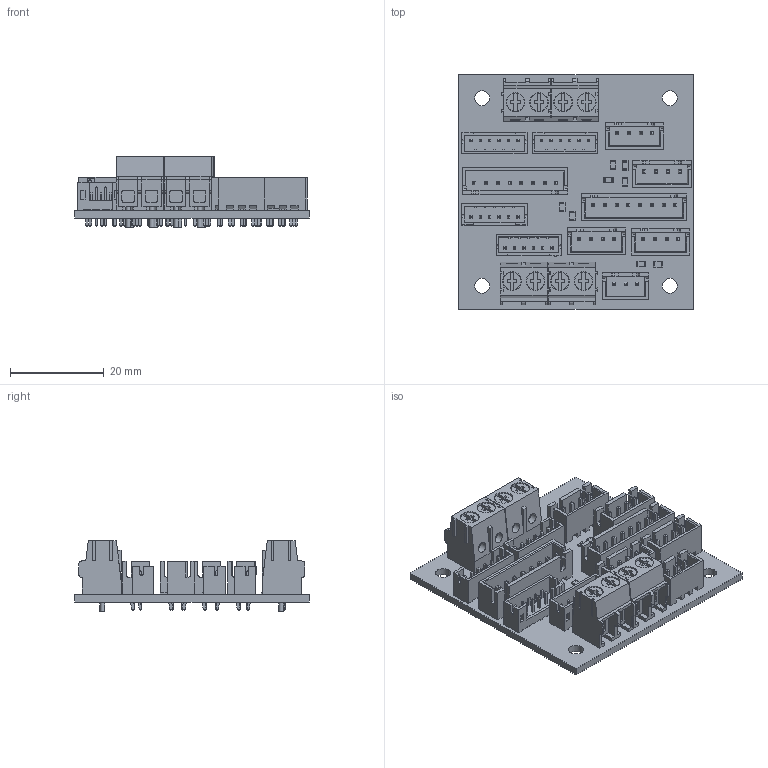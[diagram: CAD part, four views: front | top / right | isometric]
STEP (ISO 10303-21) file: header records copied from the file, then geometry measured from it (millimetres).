
FILE_DESCRIPTION(('KiCad electronic assembly'),'2;1');
FILE_NAME('mirte-master-bottom.step','2024-02-19T14:21:27',('Pcbnew'),( 'Kicad'),'Open CASCADE STEP processor 7.7','KiCad to STEP converter' ,'Unknown');
FILE_SCHEMA(('AUTOMOTIVE_DESIGN { 1 0 10303 214 1 1 1 1 }'));
Length unit declared in the file: millimetre
Products named in the file (14): mirte-master-bottom 1; JST_XH_B4B-XH-A_1x04_P2.50mm_Vertical; SOLID; JST_XH_B8B-XH-A_1x08_P2.50mm_Vertical; R_0805_2012Metric; JST_PH_B6B-PH-K_1x06_P2.00mm_Vertical; JST_XH_B3B-XH-A_1x03_P2.50mm_Vertical; TerminalBlock_Phoenix_PT-1,5-2-5.0-H_1x02_P5.00mm_Horizontal; mirte-master-bottom PCB
Assembly tree (30 placements, depth 3):
  mirte-master-bottom 1
    JST_XH_B4B-XH-A_1x04_P2.50mm_Vertical  x4
      SOLID
    JST_XH_B8B-XH-A_1x08_P2.50mm_Vertical  x2
      SOLID
    R_0805_2012Metric  x8
      SOLID
    JST_PH_B6B-PH-K_1x06_P2.00mm_Vertical  x4
      SOLID
    JST_XH_B3B-XH-A_1x03_P2.50mm_Vertical
      SOLID
    TerminalBlock_Phoenix_PT-1,5-2-5.0-H_1x02_P5.00mm_Horizontal  x4
      SOLID
    mirte-master-bottom PCB
Bounding box: 50 x 50 x 15 mm (x, y, z)
Volume: 9289.3 mm3; surface area: 17081.9 mm2
Topology: 24 solids, 24 shells, 2764 faces, 7256 edges, 4686 vertices
Faces by surface type: plane 2489, cylinder 275
Full cylindrical faces by diameter (mm): 0.75 x24, 0.95 x35, 1 x8, 1.3 x8, 2.2 x8, 3.2 x4, 3.8 x8, 4 x8
Entity records: 67118 total; most frequent: CARTESIAN_POINT 11014, DIRECTION 9313, LINE 6832, VECTOR 6832, ORIENTED_EDGE 4892, PCURVE 4892, DEFINITIONAL_REPRESENTATION 4892, EDGE_CURVE 2446
